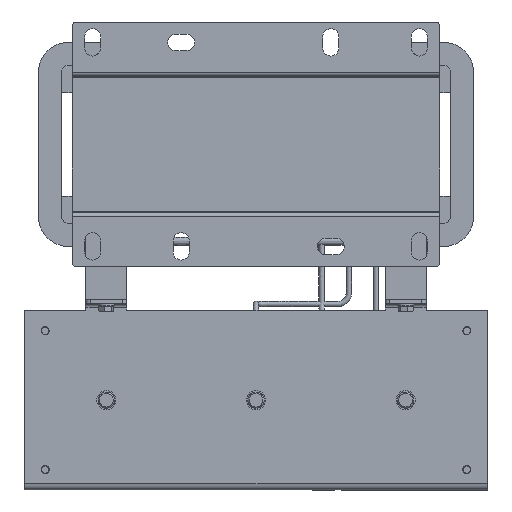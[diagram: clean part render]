
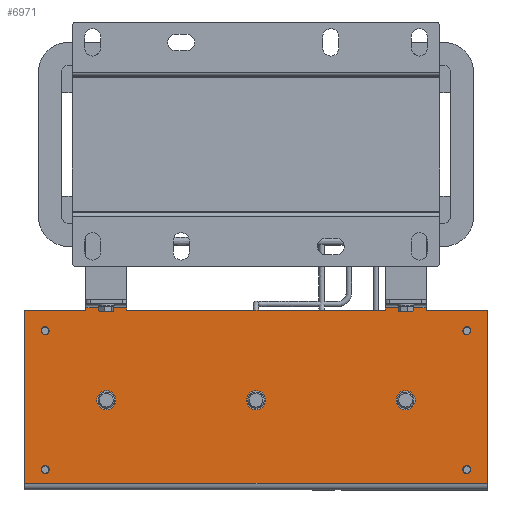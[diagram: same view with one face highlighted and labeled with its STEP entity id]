
A CAD part, front view. The second image highlights one B-rep face of the part: STEP entity #6971.
In plain terms, the highlighted planar face has unit normal (0, -1, 0).
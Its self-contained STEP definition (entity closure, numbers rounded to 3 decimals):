
#6971=ADVANCED_FACE('',(#22345,#22347,#22349,#22351,#22353,#22355,#22357,#22359),
#22361,.F.);
#22345=FACE_BOUND('',#22346,.T.);
#22346=EDGE_LOOP('',(#41737,#41738,#41739,#41740,#41741,#41742,#41743,#41744,#41745,
#41746,#41747,#41748));
#22347=FACE_BOUND('',#22348,.T.);
#22348=EDGE_LOOP('',(#41749));
#22349=FACE_BOUND('',#22350,.T.);
#22350=EDGE_LOOP('',(#41750));
#22351=FACE_BOUND('',#22352,.T.);
#22352=EDGE_LOOP('',(#41751));
#22353=FACE_BOUND('',#22354,.T.);
#22354=EDGE_LOOP('',(#41752));
#22355=FACE_BOUND('',#22356,.T.);
#22356=EDGE_LOOP('',(#41753));
#22357=FACE_BOUND('',#22358,.T.);
#22358=EDGE_LOOP('',(#41754));
#22359=FACE_BOUND('',#22360,.T.);
#22360=EDGE_LOOP('',(#41755));
#22361=PLANE('',#22362);
#22362=AXIS2_PLACEMENT_3D('',#22363,#22364,#22365);
#22363=CARTESIAN_POINT('',(-134.,-55.,170.));
#22364=DIRECTION('',(0.,1.,0.));
#22365=DIRECTION('',(0.,0.,1.));
#41737=ORIENTED_EDGE('',*,*,#49870,.T.);
#41738=ORIENTED_EDGE('',*,*,#49871,.T.);
#41739=ORIENTED_EDGE('',*,*,#49872,.T.);
#41740=ORIENTED_EDGE('',*,*,#49873,.F.);
#41741=ORIENTED_EDGE('',*,*,#49874,.T.);
#41742=ORIENTED_EDGE('',*,*,#49875,.T.);
#41743=ORIENTED_EDGE('',*,*,#49876,.T.);
#41744=ORIENTED_EDGE('',*,*,#49877,.F.);
#41745=ORIENTED_EDGE('',*,*,#49803,.T.);
#41746=ORIENTED_EDGE('',*,*,#49878,.T.);
#41747=ORIENTED_EDGE('',*,*,#49789,.F.);
#41748=ORIENTED_EDGE('',*,*,#49879,.F.);
#41749=ORIENTED_EDGE('',*,*,#49728,.T.);
#41750=ORIENTED_EDGE('',*,*,#49730,.T.);
#41751=ORIENTED_EDGE('',*,*,#49732,.T.);
#41752=ORIENTED_EDGE('',*,*,#49734,.T.);
#41753=ORIENTED_EDGE('',*,*,#49736,.T.);
#41754=ORIENTED_EDGE('',*,*,#49738,.T.);
#41755=ORIENTED_EDGE('',*,*,#49740,.T.);
#49728=EDGE_CURVE('',#54105,#54105,#54106,.T.);
#49730=EDGE_CURVE('',#54109,#54109,#54110,.T.);
#49732=EDGE_CURVE('',#54113,#54113,#54114,.T.);
#49734=EDGE_CURVE('',#54117,#54117,#54118,.T.);
#49736=EDGE_CURVE('',#54121,#54121,#54122,.T.);
#49738=EDGE_CURVE('',#54125,#54125,#54126,.T.);
#49740=EDGE_CURVE('',#54129,#54129,#54130,.T.);
#49789=EDGE_CURVE('',#54221,#54222,#54223,.T.);
#49803=EDGE_CURVE('',#54250,#54248,#54251,.T.);
#49870=EDGE_CURVE('',#54368,#54369,#54370,.T.);
#49871=EDGE_CURVE('',#54369,#54371,#54372,.T.);
#49872=EDGE_CURVE('',#54371,#54373,#54374,.T.);
#49873=EDGE_CURVE('',#54375,#54373,#54376,.T.);
#49874=EDGE_CURVE('',#54375,#54377,#54378,.T.);
#49875=EDGE_CURVE('',#54377,#54379,#54380,.T.);
#49876=EDGE_CURVE('',#54379,#54381,#54382,.T.);
#49877=EDGE_CURVE('',#54250,#54381,#54383,.T.);
#49878=EDGE_CURVE('',#54248,#54222,#54384,.T.);
#49879=EDGE_CURVE('',#54368,#54221,#54385,.T.);
#54105=VERTEX_POINT('',#62686);
#54106=CIRCLE('',#62687,3.);
#54109=VERTEX_POINT('',#62696);
#54110=CIRCLE('',#62697,3.);
#54113=VERTEX_POINT('',#62706);
#54114=CIRCLE('',#62707,3.);
#54117=VERTEX_POINT('',#62716);
#54118=CIRCLE('',#62717,3.);
#54121=VERTEX_POINT('',#62726);
#54122=CIRCLE('',#62727,7.);
#54125=VERTEX_POINT('',#62736);
#54126=CIRCLE('',#62737,7.);
#54129=VERTEX_POINT('',#62746);
#54130=CIRCLE('',#62747,7.);
#54221=VERTEX_POINT('',#62957);
#54222=VERTEX_POINT('',#62958);
#54223=LINE('',#62959,#62960);
#54248=VERTEX_POINT('',#63014);
#54250=VERTEX_POINT('',#63019);
#54251=LINE('',#63020,#63021);
#54368=VERTEX_POINT('',#63285);
#54369=VERTEX_POINT('',#63286);
#54370=LINE('',#63287,#63288);
#54371=VERTEX_POINT('',#63290);
#54372=LINE('',#63291,#63292);
#54373=VERTEX_POINT('',#63294);
#54374=LINE('',#63295,#63296);
#54375=VERTEX_POINT('',#63298);
#54376=LINE('',#63299,#63300);
#54377=VERTEX_POINT('',#63302);
#54378=LINE('',#63303,#63304);
#54379=VERTEX_POINT('',#63306);
#54380=LINE('',#63307,#63308);
#54381=VERTEX_POINT('',#63310);
#54382=LINE('',#63311,#63312);
#54383=LINE('',#63314,#63315);
#54384=LINE('',#63317,#63318);
#54385=LINE('',#63320,#63321);
#62686=CARTESIAN_POINT('',(-15.,-55.,-155.));
#62687=AXIS2_PLACEMENT_3D('',#62688,#62689,#62690);
#62688=CARTESIAN_POINT('',(-12.,-55.,-155.));
#62689=DIRECTION('',(0.,1.,0.));
#62690=DIRECTION('',(1.,0.,0.));
#62696=CARTESIAN_POINT('',(-117.,-55.,155.));
#62697=AXIS2_PLACEMENT_3D('',#62698,#62699,#62700);
#62698=CARTESIAN_POINT('',(-114.,-55.,155.));
#62699=DIRECTION('',(0.,1.,0.));
#62700=DIRECTION('',(1.,0.,0.));
#62706=CARTESIAN_POINT('',(-15.,-55.,155.));
#62707=AXIS2_PLACEMENT_3D('',#62708,#62709,#62710);
#62708=CARTESIAN_POINT('',(-12.,-55.,155.));
#62709=DIRECTION('',(0.,1.,0.));
#62710=DIRECTION('',(1.,0.,0.));
#62716=CARTESIAN_POINT('',(-117.,-55.,-155.));
#62717=AXIS2_PLACEMENT_3D('',#62718,#62719,#62720);
#62718=CARTESIAN_POINT('',(-114.,-55.,-155.));
#62719=DIRECTION('',(0.,1.,0.));
#62720=DIRECTION('',(1.,0.,0.));
#62726=CARTESIAN_POINT('',(-63.,-55.,117.));
#62727=AXIS2_PLACEMENT_3D('',#62728,#62729,#62730);
#62728=CARTESIAN_POINT('',(-63.,-55.,110.));
#62729=DIRECTION('',(0.,1.,0.));
#62730=DIRECTION('',(0.,0.,-1.));
#62736=CARTESIAN_POINT('',(-63.,-55.,-103.));
#62737=AXIS2_PLACEMENT_3D('',#62738,#62739,#62740);
#62738=CARTESIAN_POINT('',(-63.,-55.,-110.));
#62739=DIRECTION('',(0.,1.,0.));
#62740=DIRECTION('',(0.,0.,-1.));
#62746=CARTESIAN_POINT('',(-63.,-55.,7.));
#62747=AXIS2_PLACEMENT_3D('',#62748,#62749,#62750);
#62748=CARTESIAN_POINT('',(-63.,-55.,0.));
#62749=DIRECTION('',(0.,1.,0.));
#62750=DIRECTION('',(0.,0.,-1.));
#62957=CARTESIAN_POINT('',(-129.,-55.,170.));
#62958=CARTESIAN_POINT('',(-2.,-55.,170.));
#62959=CARTESIAN_POINT('',(-129.,-55.,170.));
#62960=VECTOR('',#62961,1.);
#62961=DIRECTION('',(1.,0.,0.));
#63014=CARTESIAN_POINT('',(-2.,-55.,-170.));
#63019=CARTESIAN_POINT('',(-129.,-55.,-170.));
#63020=CARTESIAN_POINT('',(-129.,-55.,-170.));
#63021=VECTOR('',#63022,1.);
#63022=DIRECTION('',(1.,0.,0.));
#63285=CARTESIAN_POINT('',(-129.,-55.,125.));
#63286=CARTESIAN_POINT('',(-131.,-55.,125.));
#63287=CARTESIAN_POINT('',(-129.,-55.,125.));
#63288=VECTOR('',#63289,1.);
#63289=DIRECTION('',(-1.,0.,0.));
#63290=CARTESIAN_POINT('',(-131.,-55.,95.));
#63291=CARTESIAN_POINT('',(-131.,-55.,125.));
#63292=VECTOR('',#63293,1.);
#63293=DIRECTION('',(0.,0.,-1.));
#63294=CARTESIAN_POINT('',(-129.,-55.,95.));
#63295=CARTESIAN_POINT('',(-131.,-55.,95.));
#63296=VECTOR('',#63297,1.);
#63297=DIRECTION('',(1.,0.,0.));
#63298=CARTESIAN_POINT('',(-129.,-55.,-95.));
#63299=CARTESIAN_POINT('',(-129.,-55.,-95.));
#63300=VECTOR('',#63301,1.);
#63301=DIRECTION('',(0.,0.,1.));
#63302=CARTESIAN_POINT('',(-131.,-55.,-95.));
#63303=CARTESIAN_POINT('',(-129.,-55.,-95.));
#63304=VECTOR('',#63305,1.);
#63305=DIRECTION('',(-1.,0.,0.));
#63306=CARTESIAN_POINT('',(-131.,-55.,-125.));
#63307=CARTESIAN_POINT('',(-131.,-55.,-95.));
#63308=VECTOR('',#63309,1.);
#63309=DIRECTION('',(0.,0.,-1.));
#63310=CARTESIAN_POINT('',(-129.,-55.,-125.));
#63311=CARTESIAN_POINT('',(-131.,-55.,-125.));
#63312=VECTOR('',#63313,1.);
#63313=DIRECTION('',(1.,0.,0.));
#63314=CARTESIAN_POINT('',(-129.,-55.,-170.));
#63315=VECTOR('',#63316,1.);
#63316=DIRECTION('',(0.,0.,1.));
#63317=CARTESIAN_POINT('',(-2.,-55.,-170.));
#63318=VECTOR('',#63319,1.);
#63319=DIRECTION('',(0.,0.,1.));
#63320=CARTESIAN_POINT('',(-129.,-55.,125.));
#63321=VECTOR('',#63322,1.);
#63322=DIRECTION('',(0.,0.,1.));
